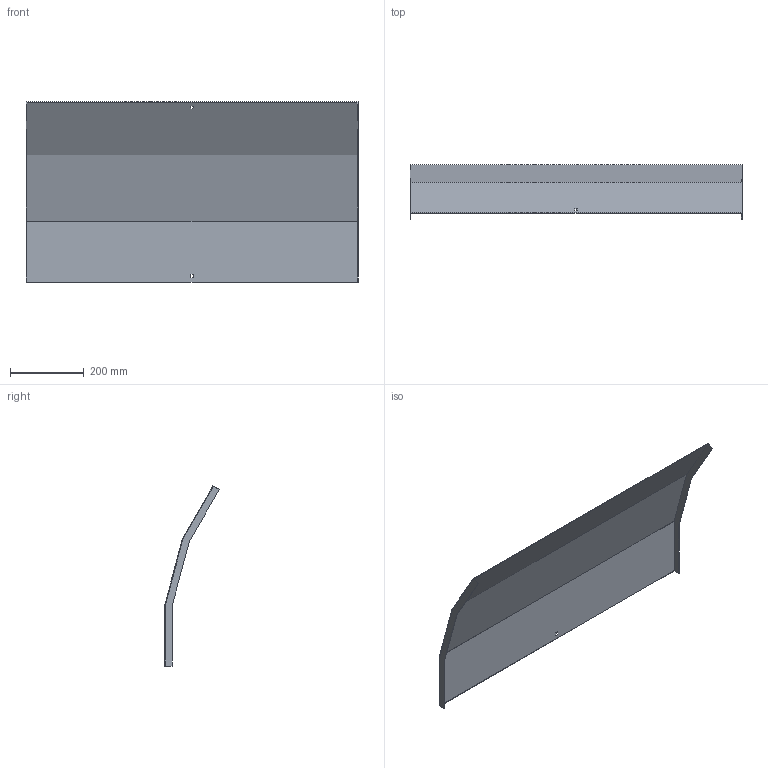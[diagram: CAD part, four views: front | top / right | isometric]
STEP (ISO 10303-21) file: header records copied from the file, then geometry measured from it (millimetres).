
FILE_DESCRIPTION (( 'STEP AP214' ), '1' );
FILE_NAME ('A2_35N3D900.step', '2025-02-21T10:31:05', ( '' ), ( '' ), 'SwSTEP 2.0', 'SolidWorks 2023', '' );
FILE_SCHEMA (( 'AUTOMOTIVE_DESIGN' ));
Length unit declared in the file: millimetre
Products named in the file (1): A2_35N3D900
Bounding box: 903 x 148.61 x 489.96 mm (x, y, z)
Volume: 730105.7 mm3; surface area: 977912.5 mm2
Topology: 1 solids, 1 shells, 26 faces, 72 edges, 48 vertices
Faces by surface type: plane 26
Entity records: 847 total; most frequent: CARTESIAN_POINT 147, ORIENTED_EDGE 144, DIRECTION 126, LINE 72, VECTOR 72, EDGE_CURVE 72, VERTEX_POINT 48, EDGE_LOOP 30
